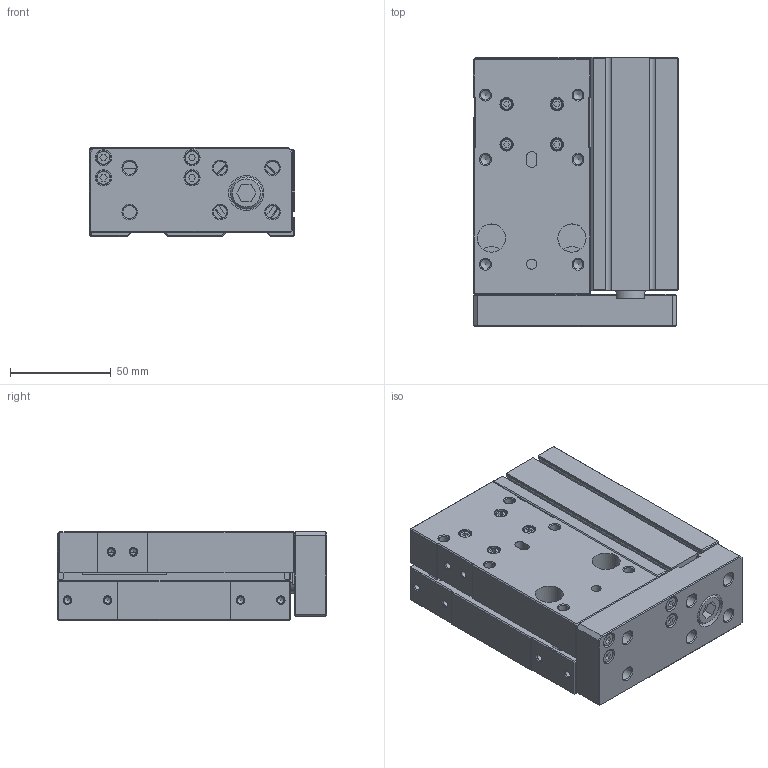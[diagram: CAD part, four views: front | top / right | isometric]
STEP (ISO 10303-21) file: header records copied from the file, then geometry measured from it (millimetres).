
FILE_DESCRIPTION((''),'2;1');
FILE_NAME('I:\3D電子目錄\氣缸\FMR(L)\FMR(L)\FMR32x50.stp','2007-10-15T16:12:00',('Administrator'),(''),'Autodesk Inventor 11','Autodesk Inventor 11','');
FILE_SCHEMA(('AUTOMOTIVE_DESIGN { 1 0 10303 214 1 1 1 1 }'));
Length unit declared in the file: millimetre
Products named in the file (1): FMR32x50
Bounding box: 102 x 133.8 x 44 mm (x, y, z)
Volume: 446143 mm3; surface area: 110475 mm2
Topology: 14 solids, 14 shells, 527 faces, 1225 edges, 768 vertices
Faces by surface type: plane 329, bspline 101, cylinder 49, cone 48
Full cylindrical faces by diameter (mm): 1.5 x2, 2 x2, 4.2 x1, 5 x2, 5.5 x4, 7 x4, 11 x1, 11.5 x1, 12 x1, 14 x4, 16 x4, 18 x1, 20 x1, 28.5 x2, 32 x3, 34 x3, 36 x2
Entity records: 14675 total; most frequent: CARTESIAN_POINT 3798, DIRECTION 2133, ORIENTED_EDGE 2012, EDGE_CURVE 1006, EDGE_LOOP 779, AXIS2_PLACEMENT_3D 714, VERTEX_POINT 707, VECTOR 705
